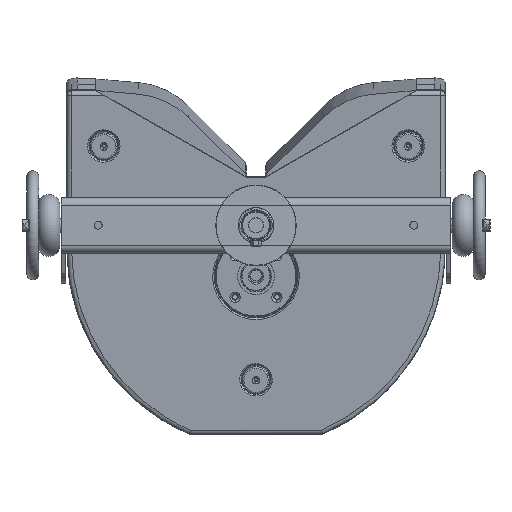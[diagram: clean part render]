
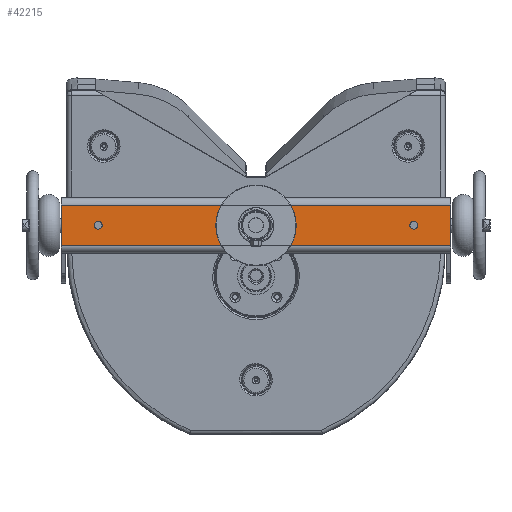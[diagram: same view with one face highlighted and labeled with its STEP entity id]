
A CAD part, front view. The second image highlights one B-rep face of the part: STEP entity #42215.
In plain terms, the highlighted planar face has unit normal (0, -1, 0) as drawn and (0, 0, -1) by its records, which use the part's own axes.
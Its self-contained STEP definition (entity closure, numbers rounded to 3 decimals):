
#882 = DIRECTION ( 'NONE',  ( 1., 0., 0. ) ) ;
#883 = DIRECTION ( 'NONE',  ( 0., 0., 1. ) ) ;
#884 = CARTESIAN_POINT ( 'NONE',  ( 256., 199.95, -223.511 ) ) ;
#885 = AXIS2_PLACEMENT_3D ( 'NONE', #884, #883, #882 ) ;
#886 = CIRCLE ( 'NONE', #885, 10.25 ) ;
#920 = DIRECTION ( 'NONE',  ( 1., 0., 0. ) ) ;
#921 = DIRECTION ( 'NONE',  ( 0., 0., 1. ) ) ;
#922 = CARTESIAN_POINT ( 'NONE',  ( 42.5, 199.95, -223.511 ) ) ;
#923 = AXIS2_PLACEMENT_3D ( 'NONE', #922, #921, #920 ) ;
#927 = CIRCLE ( 'NONE', #923, 5.25 ) ;
#1024 = DIRECTION ( 'NONE',  ( 1., 0., 0. ) ) ;
#1025 = DIRECTION ( 'NONE',  ( 0., 0., 1. ) ) ;
#1026 = CARTESIAN_POINT ( 'NONE',  ( 469.5, 199.95, -223.511 ) ) ;
#1027 = AXIS2_PLACEMENT_3D ( 'NONE', #1026, #1025, #1024 ) ;
#1028 = CIRCLE ( 'NONE', #1027, 5.25 ) ;
#1096 = CARTESIAN_POINT ( 'NONE',  ( 519.5, 227.45, -223.511 ) ) ;
#1097 = DIRECTION ( 'NONE',  ( 0., -1., 0. ) ) ;
#1098 = VECTOR ( 'NONE', #1097, 1000. ) ;
#1099 = CARTESIAN_POINT ( 'NONE',  ( 519.5, 162.45, -223.511 ) ) ;
#1100 = LINE ( 'NONE', #1099, #1098 ) ;
#1101 = CARTESIAN_POINT ( 'NONE',  ( 519.5, 172.45, -223.511 ) ) ;
#18303 = VERTEX_POINT ( 'NONE', #45977 ) ;
#18314 = VERTEX_POINT ( 'NONE', #46030 ) ;
#18316 = EDGE_CURVE ( 'NONE', #18314, #18303, #46023, .T. ) ;
#24255 = LINE ( 'NONE', #24317, #24316 ) ;
#24286 = AXIS2_PLACEMENT_3D ( 'NONE', #24354, #24353, #24352 ) ;
#24287 = PLANE ( 'NONE',  #24286 ) ;
#24288 = FACE_BOUND ( 'NONE', #42206, .T. ) ;
#24289 = FACE_BOUND ( 'NONE', #42203, .T. ) ;
#24290 = FACE_BOUND ( 'NONE', #42200, .T. ) ;
#24291 = FACE_OUTER_BOUND ( 'NONE', #42216, .T. ) ;
#24310 = DIRECTION ( 'NONE',  ( 0., 1., 0. ) ) ;
#24311 = VECTOR ( 'NONE', #24310, 1000. ) ;
#24312 = CARTESIAN_POINT ( 'NONE',  ( -7.5, 207.935, -223.511 ) ) ;
#24313 = LINE ( 'NONE', #24312, #24311 ) ;
#24314 = CARTESIAN_POINT ( 'NONE',  ( -7.5, 172.45, -223.511 ) ) ;
#24315 = DIRECTION ( 'NONE',  ( 1., 0., 0. ) ) ;
#24316 = VECTOR ( 'NONE', #24315, 1000. ) ;
#24317 = CARTESIAN_POINT ( 'NONE',  ( 513.5, 172.45, -223.511 ) ) ;
#24337 = CARTESIAN_POINT ( 'NONE',  ( -7.5, 227.45, -223.511 ) ) ;
#24347 = DIRECTION ( 'NONE',  ( -1., 0., 0. ) ) ;
#24348 = VECTOR ( 'NONE', #24347, 1000. ) ;
#24349 = CARTESIAN_POINT ( 'NONE',  ( 513.5, 227.45, -223.511 ) ) ;
#24350 = LINE ( 'NONE', #24349, #24348 ) ;
#24352 = DIRECTION ( 'NONE',  ( -1., 0., 0. ) ) ;
#24353 = DIRECTION ( 'NONE',  ( 0., 0., -1. ) ) ;
#24354 = CARTESIAN_POINT ( 'NONE',  ( 513.5, 162.45, -223.511 ) ) ;
#25254 = VERTEX_POINT ( 'NONE', #48647 ) ;
#25277 = EDGE_CURVE ( 'NONE', #25278, #25254, #48750, .T. ) ;
#25278 = VERTEX_POINT ( 'NONE', #48740 ) ;
#25297 = VERTEX_POINT ( 'NONE', #48789 ) ;
#25305 = VERTEX_POINT ( 'NONE', #48786 ) ;
#25318 = EDGE_CURVE ( 'NONE', #25297, #25305, #48831, .T. ) ;
#34918 = EDGE_CURVE ( 'NONE', #25254, #25278, #886, .T. ) ;
#34935 = EDGE_CURVE ( 'NONE', #25305, #25297, #927, .T. ) ;
#34982 = EDGE_CURVE ( 'NONE', #18303, #18314, #1028, .T. ) ;
#35074 = VERTEX_POINT ( 'NONE', #1101 ) ;
#35076 = EDGE_CURVE ( 'NONE', #35077, #35074, #1100, .T. ) ;
#35077 = VERTEX_POINT ( 'NONE', #1096 ) ;
#42193 = ORIENTED_EDGE ( 'NONE', *, *, #35076, .T. ) ;
#42195 = ORIENTED_EDGE ( 'NONE', *, *, #42196, .F. ) ;
#42196 = EDGE_CURVE ( 'NONE', #42197, #35074, #24255, .T. ) ;
#42197 = VERTEX_POINT ( 'NONE', #24314 ) ;
#42198 = ORIENTED_EDGE ( 'NONE', *, *, #42199, .T. ) ;
#42199 = EDGE_CURVE ( 'NONE', #42197, #42221, #24313, .T. ) ;
#42200 = EDGE_LOOP ( 'NONE', ( #42201, #42202 ) ) ;
#42201 = ORIENTED_EDGE ( 'NONE', *, *, #34982, .T. ) ;
#42202 = ORIENTED_EDGE ( 'NONE', *, *, #18316, .T. ) ;
#42203 = EDGE_LOOP ( 'NONE', ( #42204, #42205 ) ) ;
#42204 = ORIENTED_EDGE ( 'NONE', *, *, #34918, .T. ) ;
#42205 = ORIENTED_EDGE ( 'NONE', *, *, #25277, .T. ) ;
#42206 = EDGE_LOOP ( 'NONE', ( #42509, #42511 ) ) ;
#42215 = ADVANCED_FACE ( 'NONE', ( #24291, #24290, #24289, #24288 ), #24287, .T. ) ;
#42216 = EDGE_LOOP ( 'NONE', ( #42217, #42193, #42195, #42198 ) ) ;
#42217 = ORIENTED_EDGE ( 'NONE', *, *, #42219, .F. ) ;
#42219 = EDGE_CURVE ( 'NONE', #35077, #42221, #24350, .T. ) ;
#42221 = VERTEX_POINT ( 'NONE', #24337 ) ;
#42509 = ORIENTED_EDGE ( 'NONE', *, *, #34935, .T. ) ;
#42511 = ORIENTED_EDGE ( 'NONE', *, *, #25318, .T. ) ;
#45977 = CARTESIAN_POINT ( 'NONE',  ( 474.75, 199.95, -223.511 ) ) ;
#46018 = DIRECTION ( 'NONE',  ( 1., 0., 0. ) ) ;
#46019 = DIRECTION ( 'NONE',  ( 0., 0., 1. ) ) ;
#46021 = CARTESIAN_POINT ( 'NONE',  ( 469.5, 199.95, -223.511 ) ) ;
#46022 = AXIS2_PLACEMENT_3D ( 'NONE', #46021, #46019, #46018 ) ;
#46023 = CIRCLE ( 'NONE', #46022, 5.25 ) ;
#46030 = CARTESIAN_POINT ( 'NONE',  ( 464.25, 199.95, -223.511 ) ) ;
#48647 = CARTESIAN_POINT ( 'NONE',  ( 266.25, 199.95, -223.511 ) ) ;
#48740 = CARTESIAN_POINT ( 'NONE',  ( 245.75, 199.95, -223.511 ) ) ;
#48741 = DIRECTION ( 'NONE',  ( 1., 0., 0. ) ) ;
#48742 = DIRECTION ( 'NONE',  ( 0., 0., 1. ) ) ;
#48743 = CARTESIAN_POINT ( 'NONE',  ( 256., 199.95, -223.511 ) ) ;
#48744 = AXIS2_PLACEMENT_3D ( 'NONE', #48743, #48742, #48741 ) ;
#48750 = CIRCLE ( 'NONE', #48744, 10.25 ) ;
#48786 = CARTESIAN_POINT ( 'NONE',  ( 47.75, 199.95, -223.511 ) ) ;
#48789 = CARTESIAN_POINT ( 'NONE',  ( 37.25, 199.95, -223.511 ) ) ;
#48822 = DIRECTION ( 'NONE',  ( 1., 0., 0. ) ) ;
#48823 = DIRECTION ( 'NONE',  ( 0., 0., 1. ) ) ;
#48824 = CARTESIAN_POINT ( 'NONE',  ( 42.5, 199.95, -223.511 ) ) ;
#48825 = AXIS2_PLACEMENT_3D ( 'NONE', #48824, #48823, #48822 ) ;
#48831 = CIRCLE ( 'NONE', #48825, 5.25 ) ;
